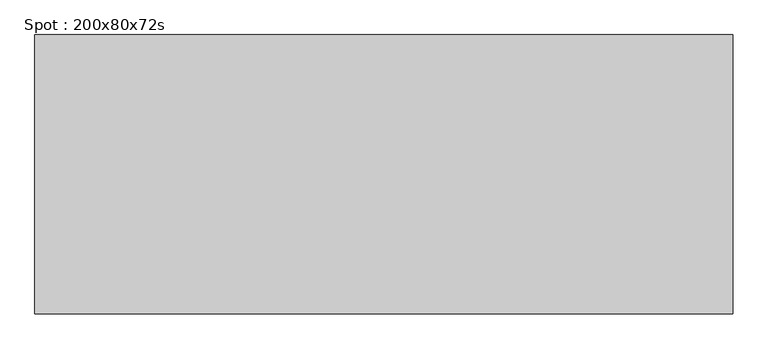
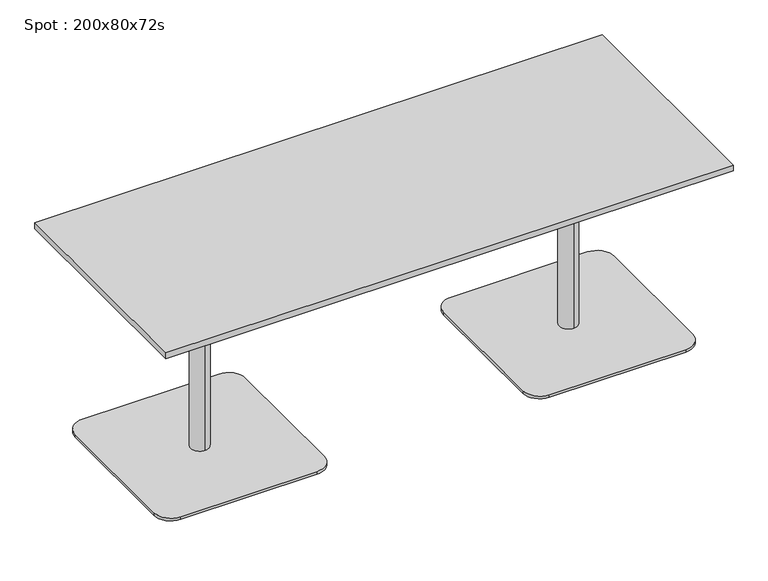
"""IFC4 building model written with IfcOpenShell, lengths in millimetres: furniture geometry, Spot : 200x80x72s."""

from ifc_helpers import new_model, si_unit, point, frame, frame_2d, origin, origin_with_axes, place, context, project, spatial, polyline, circle_curve, trimmed, segment, composite_curve, outline, extrude, source, transform, mapped, element, save
from ifc_brep_helpers import plane_surface, cylinder_surface, revolved_surface, advanced_brep


def spot_200x80x72s_764c8258(model_context):
    return source(origin(), model_context, "Body", "SolidModel", [
        extrude(outline(polyline([(1000.0, 400.0), (1000.0, -400.0), (-1000.0, -400.0), (-1000.0, 400.0), (1000.0, 400.0)])), frame((0.0, 0.0, 698.0), z_axis=(0.0, 0.0, 1.0), x_axis=(1.0, 0.0, 0.0)), (0.0, 0.0, 1.0), 22.0),
        extrude(outline(composite_curve([segment(trimmed(circle_curve(frame_2d((-410.0, 240.0)), 60.0), [point((-410.0, 300.0))], [point((-350.0, 240.0))], False, "CARTESIAN"), True, "CONTINUOUS"), segment(polyline([(-350.0, 240.0), (-350.0, -240.0)]), True, "CONTINUOUS"), segment(trimmed(circle_curve(frame_2d((-410.0, -240.0)), 60.0), [point((-350.0, -240.0))], [point((-410.0, -300.0))], False, "CARTESIAN"), True, "CONTINUOUS"), segment(polyline([(-410.0, -300.0), (-890.0, -300.0)]), True, "CONTINUOUS"), segment(trimmed(circle_curve(frame_2d((-890.0, -240.0)), 60.0), [point((-890.0, -300.0))], [point((-950.0, -240.0))], False, "CARTESIAN"), True, "CONTINUOUS"), segment(polyline([(-950.0, -240.0), (-950.0, 240.0)]), True, "CONTINUOUS"), segment(trimmed(circle_curve(frame_2d((-890.0, 240.0)), 60.0), [point((-950.0, 240.0))], [point((-890.0, 300.0))], False, "CARTESIAN"), True, "CONTINUOUS"), segment(polyline([(-890.0, 300.0), (-410.0, 300.0)]), True, "CONTINUOUS")], self_intersect=False)), origin_with_axes(), (0.0, 0.0, 1.0), 10.0),
        advanced_brep(
        [(-650.0, 32.0, 10.0), (-650.0, -32.0, 10.0), (-650.0, -32.0, 667.406916), (-650.0, 32.0, 667.406916), (-650.0, 0.0, 10.0), (-650.0, 150.0, 698.0), (-650.0, -150.0, 698.0), (-650.0, 0.0, 698.0), (-650.0, 150.0, 686.7213673), (-650.0, -150.0, 686.7213673)],
        [
            (0, 1, circle_curve(frame((-650.0, 0.0, 10.0), z_axis=(0.0, 0.0, 1.0), x_axis=(0.0, -1.0, 0.0)), 32.0)),
            (1, 2),
            (2, 3, circle_curve(frame((-650.0, 0.0, 667.406916), z_axis=(0.0, 0.0, -1.0), x_axis=(0.0, -1.0, 0.0)), 32.0)),
            (3, 0),
            (1, 0, circle_curve(frame((-650.0, 0.0, 10.0), z_axis=(0.0, 0.0, 1.0), x_axis=(0.0, -1.0, 0.0)), 32.0)),
            (3, 2, circle_curve(frame((-650.0, 0.0, 667.406916), z_axis=(0.0, 0.0, -1.0), x_axis=(0.0, -1.0, 0.0)), 32.0)),
            (4, 1),
            (0, 4),
            (5, 6, circle_curve(frame((-650.0, 0.0, 698.0), z_axis=(0.0, 0.0, 1.0), x_axis=(0.0, -1.0, 0.0)), 150.0)),
            (6, 7),
            (7, 5),
            (6, 5, circle_curve(frame((-650.0, 0.0, 698.0), z_axis=(0.0, 0.0, 1.0), x_axis=(0.0, -1.0, 0.0)), 150.0)),
            (8, 9, circle_curve(frame((-650.0, 0.0, 686.7213673), z_axis=(0.0, 0.0, 1.0), x_axis=(0.0, -1.0, 0.0)), 150.0)),
            (9, 6),
            (5, 8),
            (9, 8, circle_curve(frame((-650.0, 0.0, 686.7213673), z_axis=(0.0, 0.0, 1.0), x_axis=(0.0, -1.0, 0.0)), 150.0)),
            (2, 9),
            (8, 3),
        ],
        [
            cylinder_surface(frame((-650.0, 0.0, 1060.0), z_axis=(0.0, 0.0, -1.0), x_axis=(0.0, -1.0, 0.0)), 32.0),
            plane_surface(frame((-650.0, 0.0, 10.0), z_axis=(0.0, 0.0, -1.0), x_axis=(0.0, -1.0, 0.0))),
            plane_surface(frame((-650.0, 0.0, 698.0), z_axis=(0.0, 0.0, 1.0), x_axis=(0.0, -1.0, 0.0))),
            cylinder_surface(frame((-650.0, 0.0, 1060.0), z_axis=(0.0, 0.0, -1.0), x_axis=(0.0, -1.0, 0.0)), 150.0),
            revolved_surface(polyline([(-650.0, -150.0, 686.7213673), (-650.0, -32.0, 667.406916)]), (-650.0, 0.0, 1060.0), (0.0, 0.0, -1.0)),
        ],
        [
            (0, [[1, 2, 3, 4]]),
            (0, [[5, -4, 6, -2]]),
            (1, [[7, -1, 8]]),
            (1, [[-8, -5, -7]]),
            (2, [[9, 10, 11]]),
            (2, [[12, -11, -10]]),
            (3, [[13, 14, -9, 15]]),
            (3, [[16, -15, -12, -14]]),
            (4, [[-3, 17, -13, 18]]),
            (4, [[-6, -18, -16, -17]]),
        ],
    ),
        extrude(outline(polyline([(-650.0, 0.0), (-670.0, 0.0), (-670.0, 20.0), (-650.0, 20.0), (-650.0, 0.0)])), origin_with_axes(), (0.0, 0.0, 1.0), 10.0),
        extrude(outline(composite_curve([segment(trimmed(circle_curve(frame_2d((890.0, 240.0)), 60.0), [point((890.0, 300.0))], [point((950.0, 240.0))], False, "CARTESIAN"), True, "CONTINUOUS"), segment(polyline([(950.0, 240.0), (950.0, -240.0)]), True, "CONTINUOUS"), segment(trimmed(circle_curve(frame_2d((890.0, -240.0)), 60.0), [point((950.0, -240.0))], [point((890.0, -300.0))], False, "CARTESIAN"), True, "CONTINUOUS"), segment(polyline([(890.0, -300.0), (410.0, -300.0)]), True, "CONTINUOUS"), segment(trimmed(circle_curve(frame_2d((410.0, -240.0)), 60.0), [point((410.0, -300.0))], [point((350.0, -240.0))], False, "CARTESIAN"), True, "CONTINUOUS"), segment(polyline([(350.0, -240.0), (350.0, 240.0)]), True, "CONTINUOUS"), segment(trimmed(circle_curve(frame_2d((410.0, 240.0)), 60.0), [point((350.0, 240.0))], [point((410.0, 300.0))], False, "CARTESIAN"), True, "CONTINUOUS"), segment(polyline([(410.0, 300.0), (890.0, 300.0)]), True, "CONTINUOUS")], self_intersect=False)), origin_with_axes(), (0.0, 0.0, 1.0), 10.0),
        advanced_brep(
        [(650.0, 32.0, 10.0), (650.0, -32.0, 10.0), (650.0, -32.0, 667.406916), (650.0, 32.0, 667.406916), (650.0, 0.0, 10.0), (650.0, 150.0, 698.0), (650.0, -150.0, 698.0), (650.0, 0.0, 698.0), (650.0, 150.0, 686.7213673), (650.0, -150.0, 686.7213673)],
        [
            (0, 1, circle_curve(frame((650.0, 0.0, 10.0), z_axis=(0.0, 0.0, 1.0), x_axis=(0.0, -1.0, 0.0)), 32.0)),
            (1, 2),
            (2, 3, circle_curve(frame((650.0, 0.0, 667.406916), z_axis=(0.0, 0.0, -1.0), x_axis=(0.0, -1.0, 0.0)), 32.0)),
            (3, 0),
            (1, 0, circle_curve(frame((650.0, 0.0, 10.0), z_axis=(0.0, 0.0, 1.0), x_axis=(0.0, -1.0, 0.0)), 32.0)),
            (3, 2, circle_curve(frame((650.0, 0.0, 667.406916), z_axis=(0.0, 0.0, -1.0), x_axis=(0.0, -1.0, 0.0)), 32.0)),
            (4, 1),
            (0, 4),
            (5, 6, circle_curve(frame((650.0, 0.0, 698.0), z_axis=(0.0, 0.0, 1.0), x_axis=(0.0, -1.0, 0.0)), 150.0)),
            (6, 7),
            (7, 5),
            (6, 5, circle_curve(frame((650.0, 0.0, 698.0), z_axis=(0.0, 0.0, 1.0), x_axis=(0.0, -1.0, 0.0)), 150.0)),
            (8, 9, circle_curve(frame((650.0, 0.0, 686.7213673), z_axis=(0.0, 0.0, 1.0), x_axis=(0.0, -1.0, 0.0)), 150.0)),
            (9, 6),
            (5, 8),
            (9, 8, circle_curve(frame((650.0, 0.0, 686.7213673), z_axis=(0.0, 0.0, 1.0), x_axis=(0.0, -1.0, 0.0)), 150.0)),
            (2, 9),
            (8, 3),
        ],
        [
            cylinder_surface(frame((650.0, 0.0, 1060.0), z_axis=(0.0, 0.0, -1.0), x_axis=(0.0, -1.0, 0.0)), 32.0),
            plane_surface(frame((650.0, 0.0, 10.0), z_axis=(0.0, 0.0, -1.0), x_axis=(0.0, -1.0, 0.0))),
            plane_surface(frame((650.0, 0.0, 698.0), z_axis=(0.0, 0.0, 1.0), x_axis=(0.0, -1.0, 0.0))),
            cylinder_surface(frame((650.0, 0.0, 1060.0), z_axis=(0.0, 0.0, -1.0), x_axis=(0.0, -1.0, 0.0)), 150.0),
            revolved_surface(polyline([(650.0, -150.0, 686.7213673), (650.0, -32.0, 667.406916)]), (650.0, 0.0, 1060.0), (0.0, 0.0, -1.0)),
        ],
        [
            (0, [[1, 2, 3, 4]]),
            (0, [[5, -4, 6, -2]]),
            (1, [[7, -1, 8]]),
            (1, [[-8, -5, -7]]),
            (2, [[9, 10, 11]]),
            (2, [[12, -11, -10]]),
            (3, [[13, 14, -9, 15]]),
            (3, [[16, -15, -12, -14]]),
            (4, [[-3, 17, -13, 18]]),
            (4, [[-6, -18, -16, -17]]),
        ],
    ),
        extrude(outline(polyline([(650.0, 0.0), (630.0, 0.0), (630.0, 20.0), (650.0, 20.0), (650.0, 0.0)])), origin_with_axes(), (0.0, 0.0, 1.0), 10.0),
    ])


if __name__ == "__main__":
    model = new_model("IFC4")
    model_context = context("Model", 3, world=origin())
    ifc_project = project(units=[si_unit("LENGTHUNIT", "METRE", prefix="MILLI")], contexts=[model_context])
    site = spatial("IfcSite", under=ifc_project)
    building = spatial("IfcBuilding", under=site)
    placement = place(None, origin())
    spot_200x80x72s_shape = spot_200x80x72s_764c8258(model_context)
    element("IfcFurniture", 1, ObjectType="Spot : 200x80x72s", at=placement, inside=building, context=model_context, shape_type="MappedRepresentation", body=[
        mapped(spot_200x80x72s_shape, transform((0.0, 0.0, 0.0), x_axis=(1.0, 0.0, 0.0), y_axis=(0.0, 1.0, 0.0), z_axis=(0.0, 0.0, 1.0))),
    ])
    save(model, "model.ifc")
